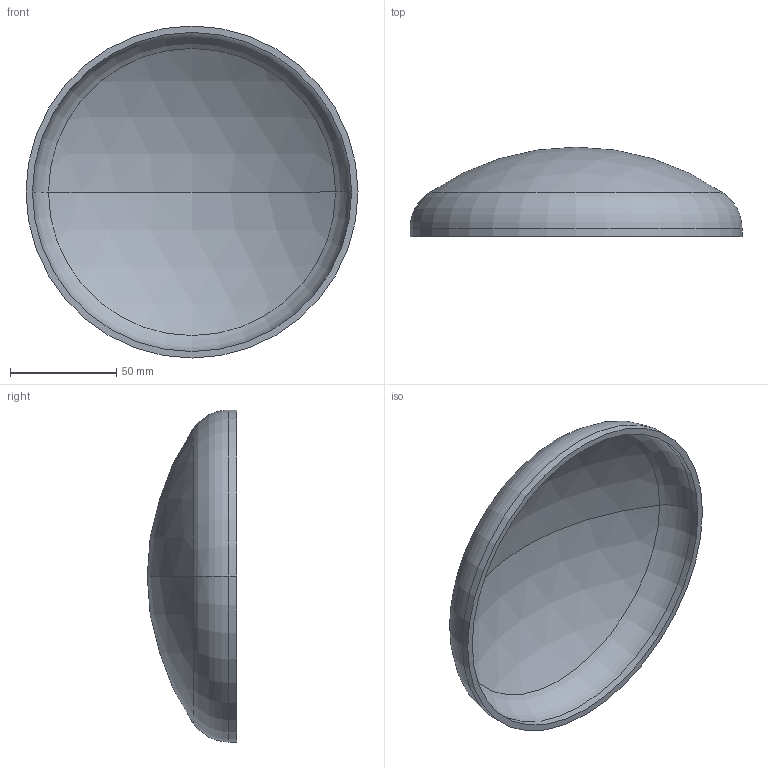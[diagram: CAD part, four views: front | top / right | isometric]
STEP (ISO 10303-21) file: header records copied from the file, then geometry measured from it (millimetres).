
FILE_DESCRIPTION (( 'STEP AP203' ), '1' );
FILE_NAME ('3D_R365_156x3_173371240.STEP', '2024-07-16T06:43:44', ( '' ), ( '' ), 'SwSTEP 2.0', 'SolidWorks 2024', '' );
FILE_SCHEMA (( 'CONFIG_CONTROL_DESIGN' ));
Length unit declared in the file: millimetre
Products named in the file (1): 3D_R365_156x3_173371240
Bounding box: 156 x 42 x 156 mm (x, y, z)
Volume: 78943.1 mm3; surface area: 54089.5 mm2
Topology: 1 solids, 1 shells, 13 faces, 24 edges, 14 vertices
Faces by surface type: sphere 4, torus 4, cylinder 4, plane 1
Entity records: 407 total; most frequent: DIRECTION 72, CARTESIAN_POINT 52, ORIENTED_EDGE 48, AXIS2_PLACEMENT_3D 34, EDGE_CURVE 24, CIRCLE 20, EDGE_LOOP 14, VERTEX_POINT 14
